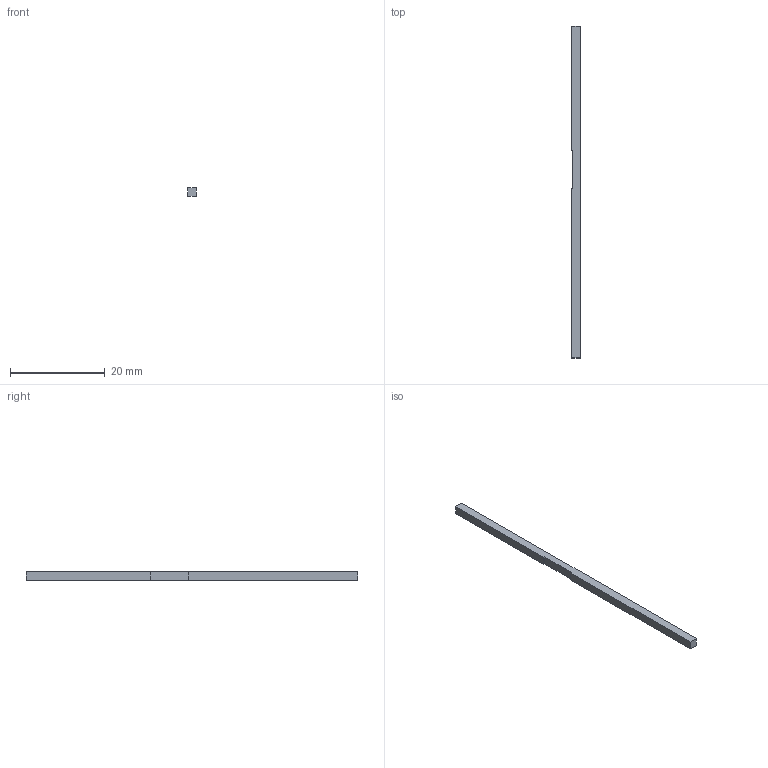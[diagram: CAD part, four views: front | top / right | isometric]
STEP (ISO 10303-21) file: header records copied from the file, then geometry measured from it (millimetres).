
FILE_DESCRIPTION(('Open CASCADE Model'),'2;1');
FILE_NAME('Open CASCADE Shape Model','2026-09-08T16:14:22',('Author'),( 'Open CASCADE'),'Open CASCADE STEP processor 7.7','Open CASCADE 7.7' ,'Unknown');
FILE_SCHEMA(('AUTOMOTIVE_DESIGN { 1 0 10303 214 1 1 1 1 }'));
Length unit declared in the file: millimetre
Products named in the file (1): Open CASCADE STEP translator 7.7 28
Bounding box: 1.8 x 70 x 1.8 mm (x, y, z)
Volume: 223.3 mm3; surface area: 507.5 mm2
Topology: 1 solids, 1 shells, 10 faces, 24 edges, 16 vertices
Faces by surface type: plane 10
Entity records: 594 total; most frequent: CARTESIAN_POINT 115, DIRECTION 78, LINE 56, VECTOR 56, ORIENTED_EDGE 48, PCURVE 48, DEFINITIONAL_REPRESENTATION 48, EDGE_CURVE 24
